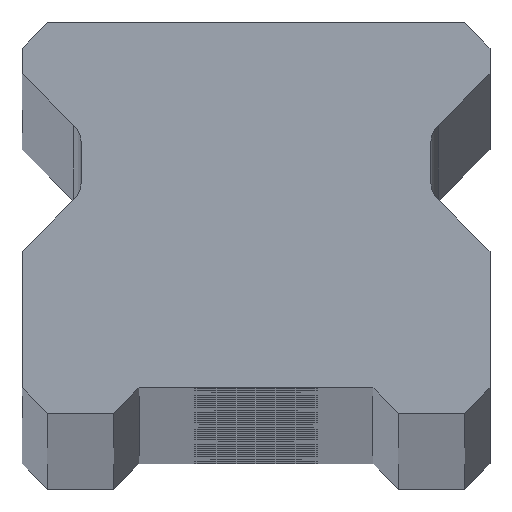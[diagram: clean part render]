
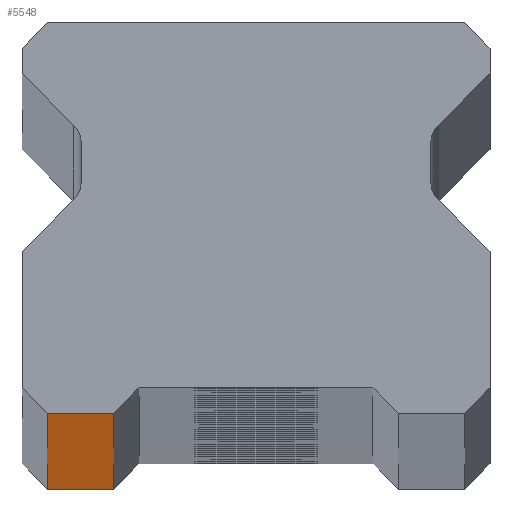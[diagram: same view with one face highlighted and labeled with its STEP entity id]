
A CAD part, top view. The second image highlights one B-rep face of the part: STEP entity #5548.
In plain terms, the highlighted planar face has unit normal (0, -1, 0).
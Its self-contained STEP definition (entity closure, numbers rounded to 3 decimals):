
#174 = VERTEX_POINT ( 'NONE', #6722 ) ;
#242 = VERTEX_POINT ( 'NONE', #5722 ) ;
#249 = DIRECTION ( 'NONE',  ( 0., 0., 1. ) ) ;
#265 = EDGE_CURVE ( 'NONE', #1158, #242, #1640, .T. ) ;
#271 = CARTESIAN_POINT ( 'NONE',  ( -7., 0., -1070. ) ) ;
#284 = VECTOR ( 'NONE', #3462, 1000. ) ;
#447 = CARTESIAN_POINT ( 'NONE',  ( 11.5, 0., 1070. ) ) ;
#639 = LINE ( 'NONE', #1649, #284 ) ;
#651 = EDGE_CURVE ( 'NONE', #174, #242, #1448, .T. ) ;
#1158 = VERTEX_POINT ( 'NONE', #5968 ) ;
#1448 = LINE ( 'NONE', #271, #2009 ) ;
#1640 = LINE ( 'NONE', #447, #7481 ) ;
#1649 = CARTESIAN_POINT ( 'NONE',  ( -10.25, 0., 1070. ) ) ;
#2009 = VECTOR ( 'NONE', #249, 1000. ) ;
#2332 = CARTESIAN_POINT ( 'NONE',  ( -10.25, 0., -1070. ) ) ;
#3271 = CARTESIAN_POINT ( 'NONE',  ( 11.5, 0., 1070. ) ) ;
#3350 = DIRECTION ( 'NONE',  ( 0., 1., 0. ) ) ;
#3434 = CARTESIAN_POINT ( 'NONE',  ( 11.5, 0., -1070. ) ) ;
#3462 = DIRECTION ( 'NONE',  ( 0., 0., -1. ) ) ;
#3677 = EDGE_CURVE ( 'NONE', #4228, #174, #6069, .T. ) ;
#4228 = VERTEX_POINT ( 'NONE', #2332 ) ;
#4508 = DIRECTION ( 'NONE',  ( -1., 0., 0. ) ) ;
#4545 = AXIS2_PLACEMENT_3D ( 'NONE', #3271, #3350, #4508 ) ;
#4756 = EDGE_LOOP ( 'NONE', ( #5292, #5966, #5072, #7123 ) ) ;
#5069 = PLANE ( 'NONE',  #4545 ) ;
#5072 = ORIENTED_EDGE ( 'NONE', *, *, #265, .F. ) ;
#5175 = FACE_OUTER_BOUND ( 'NONE', #4756, .T. ) ;
#5292 = ORIENTED_EDGE ( 'NONE', *, *, #3677, .T. ) ;
#5548 = ADVANCED_FACE ( 'NONE', ( #5175 ), #5069, .F. ) ;
#5722 = CARTESIAN_POINT ( 'NONE',  ( -7., 0., 1070. ) ) ;
#5771 = DIRECTION ( 'NONE',  ( 1., 0., 0. ) ) ;
#5772 = DIRECTION ( 'NONE',  ( 1., 0., 0. ) ) ;
#5966 = ORIENTED_EDGE ( 'NONE', *, *, #651, .T. ) ;
#5968 = CARTESIAN_POINT ( 'NONE',  ( -10.25, 0., 1070. ) ) ;
#6000 = EDGE_CURVE ( 'NONE', #1158, #4228, #639, .T. ) ;
#6069 = LINE ( 'NONE', #3434, #6337 ) ;
#6337 = VECTOR ( 'NONE', #5771, 1000. ) ;
#6722 = CARTESIAN_POINT ( 'NONE',  ( -7., 0., -1070. ) ) ;
#7123 = ORIENTED_EDGE ( 'NONE', *, *, #6000, .T. ) ;
#7481 = VECTOR ( 'NONE', #5772, 1000. ) ;
